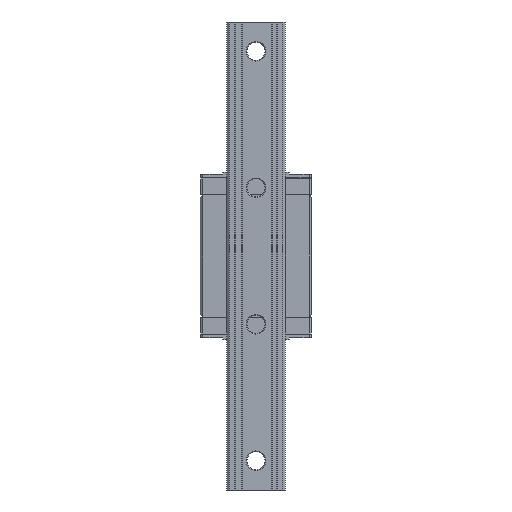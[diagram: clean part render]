
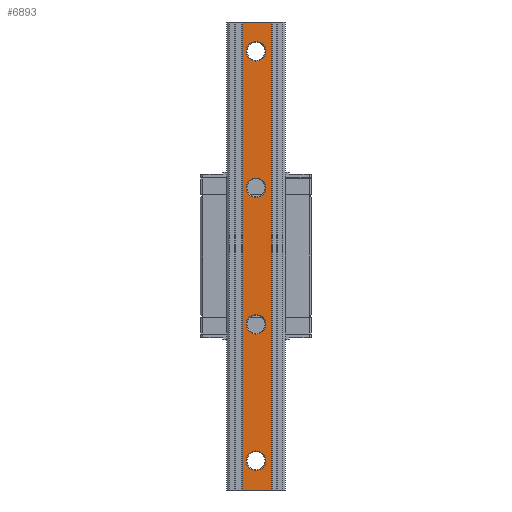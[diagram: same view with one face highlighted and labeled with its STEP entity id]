
A CAD part, front view. The second image highlights one B-rep face of the part: STEP entity #6893.
In plain terms, the highlighted planar face has unit normal (0, -1, 0).
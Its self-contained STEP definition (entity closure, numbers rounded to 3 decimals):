
#159 = CARTESIAN_POINT ( 'NONE',  ( 12., -31.1, 180. ) ) ;
#237 = CARTESIAN_POINT ( 'NONE',  ( 0., -31.1, 45. ) ) ;
#628 = PLANE ( 'NONE',  #4049 ) ;
#774 = CARTESIAN_POINT ( 'NONE',  ( 0., -31.1, -52.5 ) ) ;
#971 = CARTESIAN_POINT ( 'NONE',  ( -10.5, -31.1, 180. ) ) ;
#1420 = ORIENTED_EDGE ( 'NONE', *, *, #8920, .T. ) ;
#1528 = AXIS2_PLACEMENT_3D ( 'NONE', #6568, #17833, #16035 ) ;
#1601 = VECTOR ( 'NONE', #13781, 1000. ) ;
#1611 = CIRCLE ( 'NONE', #17047, 7.5 ) ;
#2310 = CARTESIAN_POINT ( 'NONE',  ( -10.5, -31.1, 180. ) ) ;
#2317 = VERTEX_POINT ( 'NONE', #16556 ) ;
#2712 = VERTEX_POINT ( 'NONE', #971 ) ;
#2842 = LINE ( 'NONE', #6198, #1601 ) ;
#2917 = DIRECTION ( 'NONE',  ( 0., 1., 0. ) ) ;
#3616 = AXIS2_PLACEMENT_3D ( 'NONE', #17479, #19036, #9501 ) ;
#3924 = DIRECTION ( 'NONE',  ( 0., 1., 0. ) ) ;
#4049 = AXIS2_PLACEMENT_3D ( 'NONE', #2310, #13444, #7234 ) ;
#4554 = ORIENTED_EDGE ( 'NONE', *, *, #5874, .T. ) ;
#4569 = CIRCLE ( 'NONE', #18947, 7.5 ) ;
#4775 = EDGE_LOOP ( 'NONE', ( #14755, #11341, #7800, #11806 ) ) ;
#5007 = VERTEX_POINT ( 'NONE', #18241 ) ;
#5150 = CARTESIAN_POINT ( 'NONE',  ( 0., -31.1, -52.5 ) ) ;
#5329 = DIRECTION ( 'NONE',  ( 0., 1., 0. ) ) ;
#5353 = FACE_BOUND ( 'NONE', #18598, .T. ) ;
#5552 = FACE_BOUND ( 'NONE', #19743, .T. ) ;
#5860 = EDGE_CURVE ( 'NONE', #7569, #15813, #17439, .T. ) ;
#5874 = EDGE_CURVE ( 'NONE', #15813, #7569, #15421, .T. ) ;
#6198 = CARTESIAN_POINT ( 'NONE',  ( -10.5, -31.1, 180. ) ) ;
#6549 = ORIENTED_EDGE ( 'NONE', *, *, #18586, .T. ) ;
#6568 = CARTESIAN_POINT ( 'NONE',  ( 0., -31.1, 52.5 ) ) ;
#6582 = VERTEX_POINT ( 'NONE', #19141 ) ;
#6705 = VERTEX_POINT ( 'NONE', #237 ) ;
#6718 = ORIENTED_EDGE ( 'NONE', *, *, #15300, .T. ) ;
#6724 = DIRECTION ( 'NONE',  ( 1., 0., 0. ) ) ;
#6805 = CARTESIAN_POINT ( 'NONE',  ( 0., -31.1, -150. ) ) ;
#6893 = ADVANCED_FACE ( 'NONE', ( #11768, #5353, #18481, #5552, #11968 ), #628, .F. ) ;
#7234 = DIRECTION ( 'NONE',  ( -1., 0., 0. ) ) ;
#7324 = VECTOR ( 'NONE', #6724, 1000. ) ;
#7569 = VERTEX_POINT ( 'NONE', #10074 ) ;
#7594 = ORIENTED_EDGE ( 'NONE', *, *, #10318, .T. ) ;
#7654 = DIRECTION ( 'NONE',  ( -1., 0., 0. ) ) ;
#7693 = CARTESIAN_POINT ( 'NONE',  ( 0., -31.1, 165. ) ) ;
#7800 = ORIENTED_EDGE ( 'NONE', *, *, #13818, .F. ) ;
#7895 = VERTEX_POINT ( 'NONE', #11830 ) ;
#8208 = CARTESIAN_POINT ( 'NONE',  ( 0., -31.1, 52.5 ) ) ;
#8616 = DIRECTION ( 'NONE',  ( 0., 1., 0. ) ) ;
#8920 = EDGE_CURVE ( 'NONE', #5007, #6705, #16965, .T. ) ;
#9324 = CIRCLE ( 'NONE', #11680, 7.5 ) ;
#9501 = DIRECTION ( 'NONE',  ( -1., 0., 0. ) ) ;
#9789 = DIRECTION ( 'NONE',  ( 0., 1., 0. ) ) ;
#9992 = DIRECTION ( 'NONE',  ( 1., 0., 0. ) ) ;
#10066 = AXIS2_PLACEMENT_3D ( 'NONE', #17001, #12482, #10807 ) ;
#10074 = CARTESIAN_POINT ( 'NONE',  ( 0., -31.1, -165. ) ) ;
#10318 = EDGE_CURVE ( 'NONE', #18447, #7895, #4569, .T. ) ;
#10807 = DIRECTION ( 'NONE',  ( -1., 0., 0. ) ) ;
#10906 = CARTESIAN_POINT ( 'NONE',  ( 0., -31.1, -157.5 ) ) ;
#11341 = ORIENTED_EDGE ( 'NONE', *, *, #11914, .F. ) ;
#11568 = CARTESIAN_POINT ( 'NONE',  ( -10.5, -31.1, -180. ) ) ;
#11609 = DIRECTION ( 'NONE',  ( 0., 0., -1. ) ) ;
#11680 = AXIS2_PLACEMENT_3D ( 'NONE', #13337, #8616, #16498 ) ;
#11768 = FACE_BOUND ( 'NONE', #12784, .T. ) ;
#11806 = ORIENTED_EDGE ( 'NONE', *, *, #12611, .T. ) ;
#11830 = CARTESIAN_POINT ( 'NONE',  ( 0., -31.1, -60. ) ) ;
#11906 = ORIENTED_EDGE ( 'NONE', *, *, #19038, .T. ) ;
#11914 = EDGE_CURVE ( 'NONE', #17760, #2317, #14548, .T. ) ;
#11968 = FACE_OUTER_BOUND ( 'NONE', #4775, .T. ) ;
#12130 = CARTESIAN_POINT ( 'NONE',  ( 0., -31.1, -45. ) ) ;
#12340 = AXIS2_PLACEMENT_3D ( 'NONE', #8208, #5329, #19913 ) ;
#12482 = DIRECTION ( 'NONE',  ( 0., 1., 0. ) ) ;
#12611 = EDGE_CURVE ( 'NONE', #2712, #14137, #2842, .T. ) ;
#12784 = EDGE_LOOP ( 'NONE', ( #18696, #7594 ) ) ;
#12925 = CARTESIAN_POINT ( 'NONE',  ( -10.5, -31.1, 180. ) ) ;
#12964 = EDGE_LOOP ( 'NONE', ( #11906, #1420 ) ) ;
#13001 = CIRCLE ( 'NONE', #3616, 7.5 ) ;
#13141 = LINE ( 'NONE', #11568, #16054 ) ;
#13337 = CARTESIAN_POINT ( 'NONE',  ( 0., -31.1, 157.5 ) ) ;
#13444 = DIRECTION ( 'NONE',  ( 0., 1., 0. ) ) ;
#13692 = DIRECTION ( 'NONE',  ( -1., 0., 0. ) ) ;
#13741 = VERTEX_POINT ( 'NONE', #7693 ) ;
#13781 = DIRECTION ( 'NONE',  ( 0., 0., -1. ) ) ;
#13818 = EDGE_CURVE ( 'NONE', #2712, #17760, #14707, .T. ) ;
#13823 = EDGE_CURVE ( 'NONE', #14137, #2317, #13141, .T. ) ;
#14137 = VERTEX_POINT ( 'NONE', #19196 ) ;
#14548 = LINE ( 'NONE', #159, #20686 ) ;
#14707 = LINE ( 'NONE', #12925, #7324 ) ;
#14755 = ORIENTED_EDGE ( 'NONE', *, *, #13823, .T. ) ;
#15017 = DIRECTION ( 'NONE',  ( -1., 0., 0. ) ) ;
#15300 = EDGE_CURVE ( 'NONE', #6582, #13741, #9324, .T. ) ;
#15345 = EDGE_CURVE ( 'NONE', #7895, #18447, #1611, .T. ) ;
#15421 = CIRCLE ( 'NONE', #18774, 7.5 ) ;
#15813 = VERTEX_POINT ( 'NONE', #6805 ) ;
#16035 = DIRECTION ( 'NONE',  ( -1., 0., 0. ) ) ;
#16054 = VECTOR ( 'NONE', #9992, 1000. ) ;
#16466 = CARTESIAN_POINT ( 'NONE',  ( 12., -31.1, 180. ) ) ;
#16498 = DIRECTION ( 'NONE',  ( -1., 0., 0. ) ) ;
#16556 = CARTESIAN_POINT ( 'NONE',  ( 12., -31.1, -180. ) ) ;
#16965 = CIRCLE ( 'NONE', #1528, 7.5 ) ;
#17001 = CARTESIAN_POINT ( 'NONE',  ( 0., -31.1, -157.5 ) ) ;
#17047 = AXIS2_PLACEMENT_3D ( 'NONE', #5150, #9789, #15017 ) ;
#17439 = CIRCLE ( 'NONE', #10066, 7.5 ) ;
#17479 = CARTESIAN_POINT ( 'NONE',  ( 0., -31.1, 157.5 ) ) ;
#17760 = VERTEX_POINT ( 'NONE', #16466 ) ;
#17833 = DIRECTION ( 'NONE',  ( 0., 1., 0. ) ) ;
#18241 = CARTESIAN_POINT ( 'NONE',  ( 0., -31.1, 60. ) ) ;
#18447 = VERTEX_POINT ( 'NONE', #12130 ) ;
#18481 = FACE_BOUND ( 'NONE', #12964, .T. ) ;
#18586 = EDGE_CURVE ( 'NONE', #13741, #6582, #13001, .T. ) ;
#18598 = EDGE_LOOP ( 'NONE', ( #20178, #4554 ) ) ;
#18696 = ORIENTED_EDGE ( 'NONE', *, *, #15345, .T. ) ;
#18774 = AXIS2_PLACEMENT_3D ( 'NONE', #10906, #2917, #7654 ) ;
#18947 = AXIS2_PLACEMENT_3D ( 'NONE', #774, #3924, #13692 ) ;
#19036 = DIRECTION ( 'NONE',  ( 0., 1., 0. ) ) ;
#19038 = EDGE_CURVE ( 'NONE', #6705, #5007, #20365, .T. ) ;
#19141 = CARTESIAN_POINT ( 'NONE',  ( 0., -31.1, 150. ) ) ;
#19196 = CARTESIAN_POINT ( 'NONE',  ( -10.5, -31.1, -180. ) ) ;
#19743 = EDGE_LOOP ( 'NONE', ( #6718, #6549 ) ) ;
#19913 = DIRECTION ( 'NONE',  ( -1., 0., 0. ) ) ;
#20178 = ORIENTED_EDGE ( 'NONE', *, *, #5860, .T. ) ;
#20365 = CIRCLE ( 'NONE', #12340, 7.5 ) ;
#20686 = VECTOR ( 'NONE', #11609, 1000. ) ;
